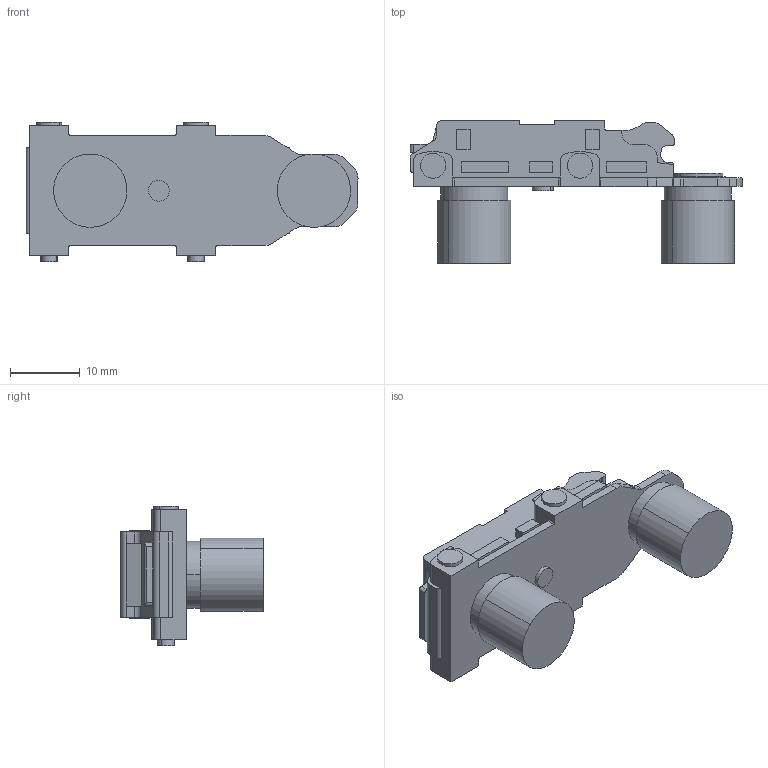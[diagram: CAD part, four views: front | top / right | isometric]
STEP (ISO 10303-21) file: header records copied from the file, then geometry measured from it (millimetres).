
FILE_DESCRIPTION (( 'STEP AP203' ), '1' );
FILE_NAME ('82T42TQ-DTC 3D.STEP', '2024-07-11T01:46:33', ( '微软用户' ), ( '微软中国' ), 'SwSTEP 2.0', 'SolidWorks 2021', '' );
FILE_SCHEMA (( 'CONFIG_CONTROL_DESIGN' ));
Length unit declared in the file: millimetre
Products named in the file (1): 82T42TQ-DTC 3D
Bounding box: 47.51 x 20.4 x 20 mm (x, y, z)
Volume: 6443.8 mm3; surface area: 3398 mm2
Topology: 1 solids, 2 shells, 230 faces, 618 edges, 412 vertices
Faces by surface type: plane 146, cylinder 80, torus 2, bspline 2
Entity records: 7403 total; most frequent: CARTESIAN_POINT 1430, ORIENTED_EDGE 1236, DIRECTION 1216, EDGE_CURVE 618, VECTOR 444, LINE 444, VERTEX_POINT 412, AXIS2_PLACEMENT_3D 386
